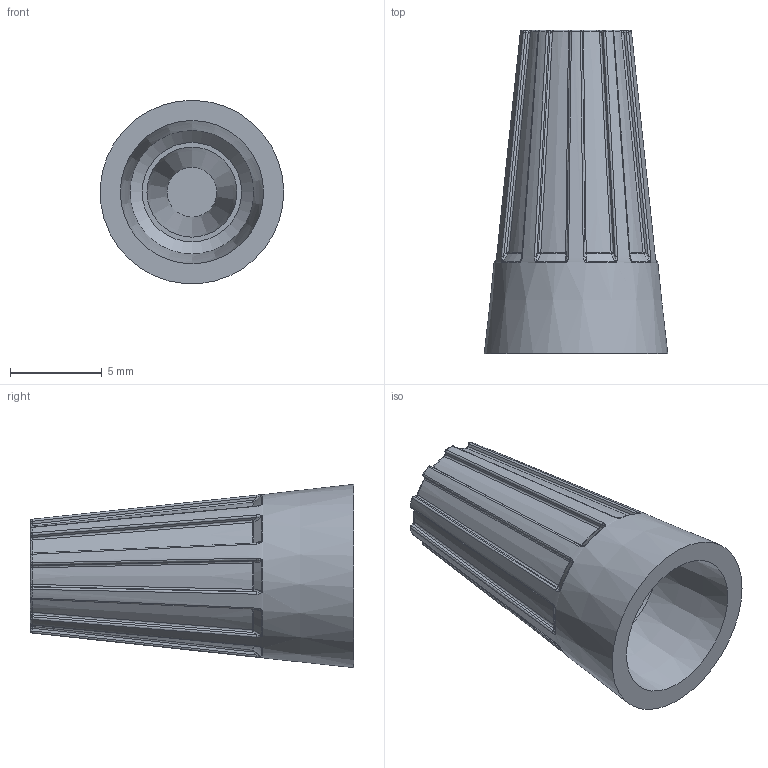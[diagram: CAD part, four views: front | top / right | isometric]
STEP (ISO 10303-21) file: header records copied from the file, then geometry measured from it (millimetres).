
FILE_DESCRIPTION(/* description */ ('Unknown'),/* implementation_level */ '2;1');
FILE_NAME(/* name */ 'Ideal 72B-2,5',/* time_stamp */ '2021-10-08T08:47:46+02:00',/* author */ ('Unknown'),/* organization */ ('Unknown'),/* preprocessor_version */ 'ST-DEVELOPER v16.7',/* originating_system */ 'Solid Edge',/* authorisation */ 'Unknown');
FILE_SCHEMA (('AUTOMOTIVE_DESIGN {1 0 10303 214 3 1 1}'));
Length unit declared in the file: millimetre
Products named in the file (1): Ideal 72B-2,5
Bounding box: 9.99 x 17.6 x 9.98 mm (x, y, z)
Volume: 520 mm3; surface area: 816.5 mm2
Topology: 1 solids, 1 shells, 248 faces, 573 edges, 289 vertices
Faces by surface type: bspline 100, sphere 40, torus 40, plane 24, cone 24, cylinder 20
Entity records: 7594 total; most frequent: CARTESIAN_POINT 2881, ORIENTED_EDGE 1052, DIRECTION 910, EDGE_CURVE 526, AXIS2_PLACEMENT_3D 435, CIRCLE 286, VERTEX_POINT 286, EDGE_LOOP 254
